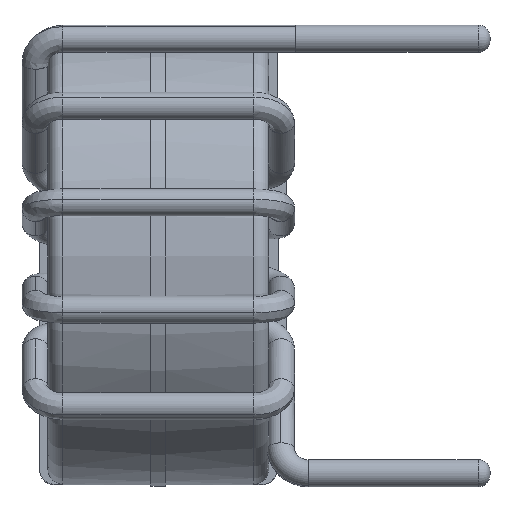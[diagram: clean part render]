
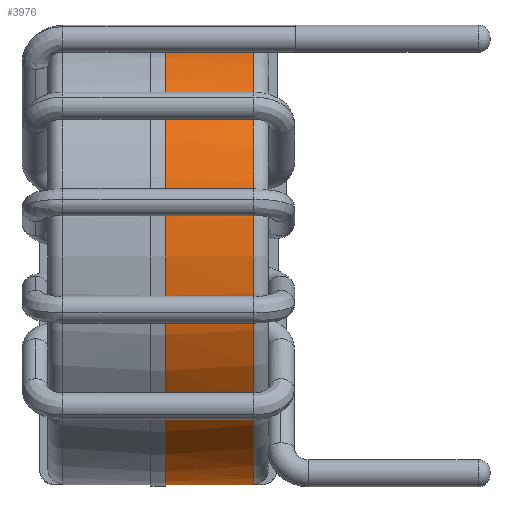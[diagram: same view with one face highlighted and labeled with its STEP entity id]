
A CAD part, left-side view. The second image highlights one B-rep face of the part: STEP entity #3976.
In plain terms, the highlighted cylindrical face has radius 15.414 mm (diameter 30.827 mm), a partial arc.
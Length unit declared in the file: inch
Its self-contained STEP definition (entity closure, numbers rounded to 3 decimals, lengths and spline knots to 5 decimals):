
#110 = DIRECTION ( 'NONE',  ( 0., 0., 1. ) ) ;
#363 = CARTESIAN_POINT ( 'NONE',  ( -0.01476, -0.25317, 0.60666 ) ) ;
#419 = CARTESIAN_POINT ( 'NONE',  ( -0.01476, -0.27559, -0.60666 ) ) ;
#447 = CARTESIAN_POINT ( 'NONE',  ( -0.04429, -0.25317, -0.60522 ) ) ;
#676 = LINE ( 'NONE', #13124, #2362 ) ;
#769 = CARTESIAN_POINT ( 'NONE',  ( -0.01476, 0.31496, 0.60666 ) ) ;
#994 = EDGE_CURVE ( 'NONE', #7364, #12777, #9503, .T. ) ;
#1221 = CIRCLE ( 'NONE', #4418, 0.60684 ) ;
#1259 = CIRCLE ( 'NONE', #9536, 0.60684 ) ;
#1274 = VECTOR ( 'NONE', #5944, 39.37008 ) ;
#1441 = ORIENTED_EDGE ( 'NONE', *, *, #2890, .T. ) ;
#1450 = CARTESIAN_POINT ( 'NONE',  ( 0., -0.01969, -0.60684 ) ) ;
#1619 = DIRECTION ( 'NONE',  ( 0., 1., 0. ) ) ;
#1855 = DIRECTION ( 'NONE',  ( 0., 1., 0. ) ) ;
#1897 = CARTESIAN_POINT ( 'NONE',  ( 0., 0.29254, 0. ) ) ;
#1944 = CIRCLE ( 'NONE', #2351, 0.60684 ) ;
#1949 = CARTESIAN_POINT ( 'NONE',  ( 0., -0.25317, -0.60684 ) ) ;
#1991 = DIRECTION ( 'NONE',  ( 0., 0., 1. ) ) ;
#2149 = VERTEX_POINT ( 'NONE', #12097 ) ;
#2238 = DIRECTION ( 'NONE',  ( 0., -1., 0. ) ) ;
#2318 = EDGE_CURVE ( 'NONE', #2363, #2149, #1259, .T. ) ;
#2343 = DIRECTION ( 'NONE',  ( 0., 1., 0. ) ) ;
#2351 = AXIS2_PLACEMENT_3D ( 'NONE', #2706, #7843, #10184 ) ;
#2362 = VECTOR ( 'NONE', #10742, 39.37008 ) ;
#2363 = VERTEX_POINT ( 'NONE', #9865 ) ;
#2375 = AXIS2_PLACEMENT_3D ( 'NONE', #9485, #10350, #3712 ) ;
#2540 = ORIENTED_EDGE ( 'NONE', *, *, #7298, .T. ) ;
#2702 = AXIS2_PLACEMENT_3D ( 'NONE', #3491, #7796, #1991 ) ;
#2706 = CARTESIAN_POINT ( 'NONE',  ( 0., -0.25317, 0. ) ) ;
#2756 = ORIENTED_EDGE ( 'NONE', *, *, #13032, .F. ) ;
#2820 = DIRECTION ( 'NONE',  ( 0., -1., 0. ) ) ;
#2866 = CIRCLE ( 'NONE', #2702, 0.60684 ) ;
#2890 = EDGE_CURVE ( 'NONE', #11606, #11448, #10070, .T. ) ;
#3350 = EDGE_CURVE ( 'NONE', #4994, #7381, #10487, .T. ) ;
#3467 = ORIENTED_EDGE ( 'NONE', *, *, #5742, .T. ) ;
#3491 = CARTESIAN_POINT ( 'NONE',  ( 0., -0.25317, 0. ) ) ;
#3712 = DIRECTION ( 'NONE',  ( 0., 0., 1. ) ) ;
#3732 = CARTESIAN_POINT ( 'NONE',  ( 0., 0.29254, 0.60684 ) ) ;
#3775 = VERTEX_POINT ( 'NONE', #11787 ) ;
#3811 = VECTOR ( 'NONE', #2820, 39.37008 ) ;
#3976 = ADVANCED_FACE ( 'NONE', ( #6206 ), #5758, .T. ) ;
#4242 = CARTESIAN_POINT ( 'NONE',  ( -0.04429, -0.27559, -0.60522 ) ) ;
#4418 = AXIS2_PLACEMENT_3D ( 'NONE', #5719, #1855, #8467 ) ;
#4588 = AXIS2_PLACEMENT_3D ( 'NONE', #1897, #4897, #5125 ) ;
#4629 = DIRECTION ( 'NONE',  ( 0., -1., 0. ) ) ;
#4897 = DIRECTION ( 'NONE',  ( 0., -1., 0. ) ) ;
#4947 = EDGE_CURVE ( 'NONE', #7381, #11606, #676, .T. ) ;
#4994 = VERTEX_POINT ( 'NONE', #1949 ) ;
#5089 = LINE ( 'NONE', #12592, #1274 ) ;
#5125 = DIRECTION ( 'NONE',  ( 0., 0., -1. ) ) ;
#5500 = CARTESIAN_POINT ( 'NONE',  ( -0.04429, 0.31496, -0.60522 ) ) ;
#5532 = ORIENTED_EDGE ( 'NONE', *, *, #994, .F. ) ;
#5719 = CARTESIAN_POINT ( 'NONE',  ( 0., -0.01969, 0. ) ) ;
#5742 = EDGE_CURVE ( 'NONE', #10002, #4994, #12227, .T. ) ;
#5758 = CYLINDRICAL_SURFACE ( 'NONE', #4588, 0.60684 ) ;
#5944 = DIRECTION ( 'NONE',  ( 0., -1., 0. ) ) ;
#6206 = FACE_OUTER_BOUND ( 'NONE', #7896, .T. ) ;
#6295 = ORIENTED_EDGE ( 'NONE', *, *, #10969, .F. ) ;
#6638 = DIRECTION ( 'NONE',  ( 0., 0., -1. ) ) ;
#7152 = CARTESIAN_POINT ( 'NONE',  ( 0., -0.01969, 0.60684 ) ) ;
#7298 = EDGE_CURVE ( 'NONE', #8206, #12777, #2866, .T. ) ;
#7364 = VERTEX_POINT ( 'NONE', #7152 ) ;
#7381 = VERTEX_POINT ( 'NONE', #13184 ) ;
#7458 = ORIENTED_EDGE ( 'NONE', *, *, #12366, .T. ) ;
#7467 = VERTEX_POINT ( 'NONE', #447 ) ;
#7709 = AXIS2_PLACEMENT_3D ( 'NONE', #13315, #2343, #6638 ) ;
#7796 = DIRECTION ( 'NONE',  ( 0., 1., 0. ) ) ;
#7843 = DIRECTION ( 'NONE',  ( 0., 1., 0. ) ) ;
#7896 = EDGE_LOOP ( 'NONE', ( #5532, #9493, #3467, #8684, #9273, #1441, #2756, #7458, #8223, #11091, #6295, #2540 ) ) ;
#8206 = VERTEX_POINT ( 'NONE', #363 ) ;
#8223 = ORIENTED_EDGE ( 'NONE', *, *, #13200, .T. ) ;
#8314 = VECTOR ( 'NONE', #4629, 39.37008 ) ;
#8451 = DIRECTION ( 'NONE',  ( 0., -1., 0. ) ) ;
#8467 = DIRECTION ( 'NONE',  ( 0., 0., 1. ) ) ;
#8660 = LINE ( 'NONE', #769, #8776 ) ;
#8684 = ORIENTED_EDGE ( 'NONE', *, *, #3350, .T. ) ;
#8693 = CARTESIAN_POINT ( 'NONE',  ( 0., -0.25317, 0.60684 ) ) ;
#8776 = VECTOR ( 'NONE', #8451, 39.37008 ) ;
#8890 = LINE ( 'NONE', #5500, #8314 ) ;
#9273 = ORIENTED_EDGE ( 'NONE', *, *, #4947, .T. ) ;
#9485 = CARTESIAN_POINT ( 'NONE',  ( 0., -0.25317, 0. ) ) ;
#9493 = ORIENTED_EDGE ( 'NONE', *, *, #12628, .F. ) ;
#9503 = LINE ( 'NONE', #3732, #11255 ) ;
#9536 = AXIS2_PLACEMENT_3D ( 'NONE', #11682, #1619, #110 ) ;
#9865 = CARTESIAN_POINT ( 'NONE',  ( -0.04429, -0.27559, 0.60522 ) ) ;
#10002 = VERTEX_POINT ( 'NONE', #1450 ) ;
#10070 = CIRCLE ( 'NONE', #7709, 0.60684 ) ;
#10074 = CARTESIAN_POINT ( 'NONE',  ( 0., 0.29254, -0.60684 ) ) ;
#10184 = DIRECTION ( 'NONE',  ( 0., 0., 1. ) ) ;
#10350 = DIRECTION ( 'NONE',  ( 0., 1., 0. ) ) ;
#10487 = CIRCLE ( 'NONE', #2375, 0.60684 ) ;
#10742 = DIRECTION ( 'NONE',  ( 0., -1., 0. ) ) ;
#10969 = EDGE_CURVE ( 'NONE', #8206, #2149, #8660, .T. ) ;
#11091 = ORIENTED_EDGE ( 'NONE', *, *, #2318, .T. ) ;
#11255 = VECTOR ( 'NONE', #2238, 39.37008 ) ;
#11448 = VERTEX_POINT ( 'NONE', #4242 ) ;
#11606 = VERTEX_POINT ( 'NONE', #419 ) ;
#11682 = CARTESIAN_POINT ( 'NONE',  ( 0., -0.27559, 0. ) ) ;
#11787 = CARTESIAN_POINT ( 'NONE',  ( -0.04429, -0.25317, 0.60522 ) ) ;
#12097 = CARTESIAN_POINT ( 'NONE',  ( -0.01476, -0.27559, 0.60666 ) ) ;
#12227 = LINE ( 'NONE', #10074, #3811 ) ;
#12366 = EDGE_CURVE ( 'NONE', #7467, #3775, #1944, .T. ) ;
#12592 = CARTESIAN_POINT ( 'NONE',  ( -0.04429, 0.31496, 0.60522 ) ) ;
#12628 = EDGE_CURVE ( 'NONE', #10002, #7364, #1221, .T. ) ;
#12777 = VERTEX_POINT ( 'NONE', #8693 ) ;
#13032 = EDGE_CURVE ( 'NONE', #7467, #11448, #8890, .T. ) ;
#13124 = CARTESIAN_POINT ( 'NONE',  ( -0.01476, 0.31496, -0.60666 ) ) ;
#13184 = CARTESIAN_POINT ( 'NONE',  ( -0.01476, -0.25317, -0.60666 ) ) ;
#13200 = EDGE_CURVE ( 'NONE', #3775, #2363, #5089, .T. ) ;
#13315 = CARTESIAN_POINT ( 'NONE',  ( 0., -0.27559, 0. ) ) ;
